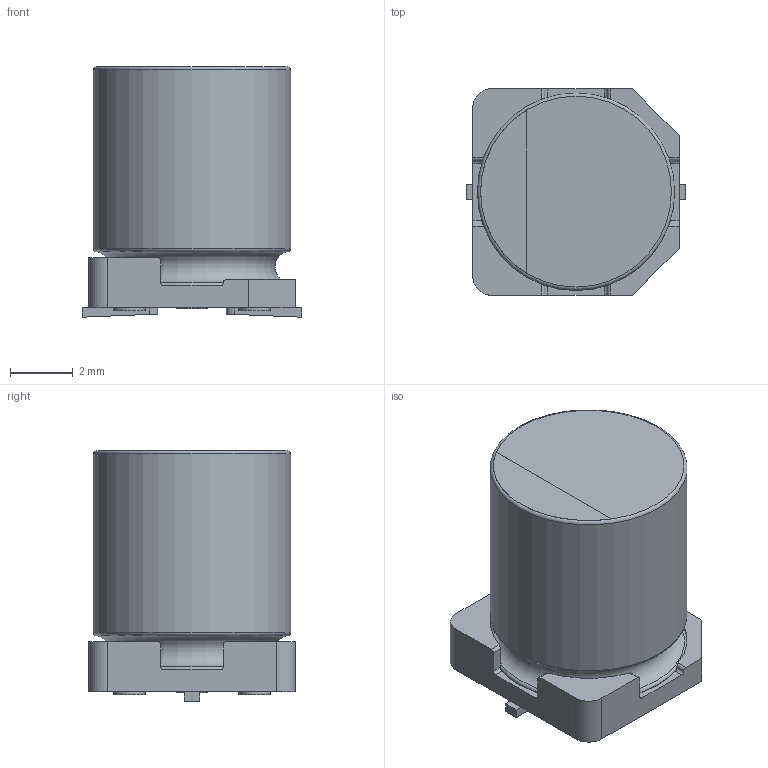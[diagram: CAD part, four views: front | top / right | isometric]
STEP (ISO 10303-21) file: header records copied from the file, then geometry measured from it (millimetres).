
FILE_DESCRIPTION(/* description */ (''),/* implementation_level */ '2;1');
FILE_NAME(/* name */ '6.3x8_Chip.stp',/* time_stamp */ '2017-09-04T17:19:44+09:00',/* author */ (''),/* organization */ (''),/* preprocessor_version */ 'ST-DEVELOPER v16',/* originating_system */ 'SIEMENS PLM Software NX 11.0',/* authorisation */ '');
FILE_SCHEMA (('AUTOMOTIVE_DESIGN { 1 0 10303 214 3 1 1 1 }'));
Length unit declared in the file: millimetre
Products named in the file (1): 6.3x8_Chip_0
Bounding box: 7 x 6.6 x 8 mm (x, y, z)
Volume: 245.9 mm3; surface area: 342.6 mm2
Topology: 5 solids, 5 shells, 74 faces, 175 edges, 116 vertices
Faces by surface type: plane 36, cylinder 34, torus 4
Full cylindrical faces by diameter (mm): 1 x5, 6.3 x2
Entity records: 2304 total; most frequent: CARTESIAN_POINT 485, DIRECTION 350, ORIENTED_EDGE 322, EDGE_CURVE 161, AXIS2_PLACEMENT_3D 130, VERTEX_POINT 113, EDGE_LOOP 90, LINE 90
